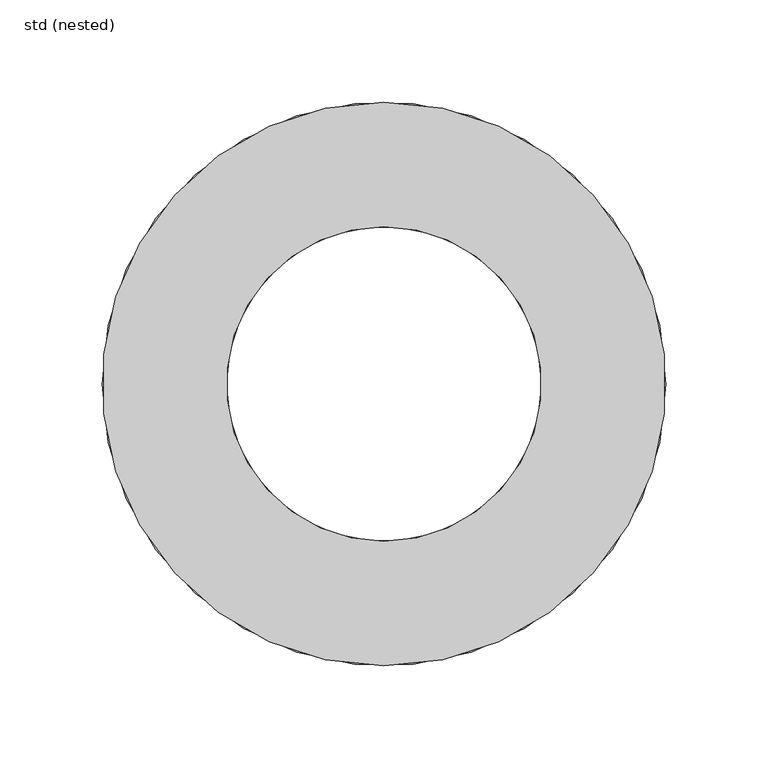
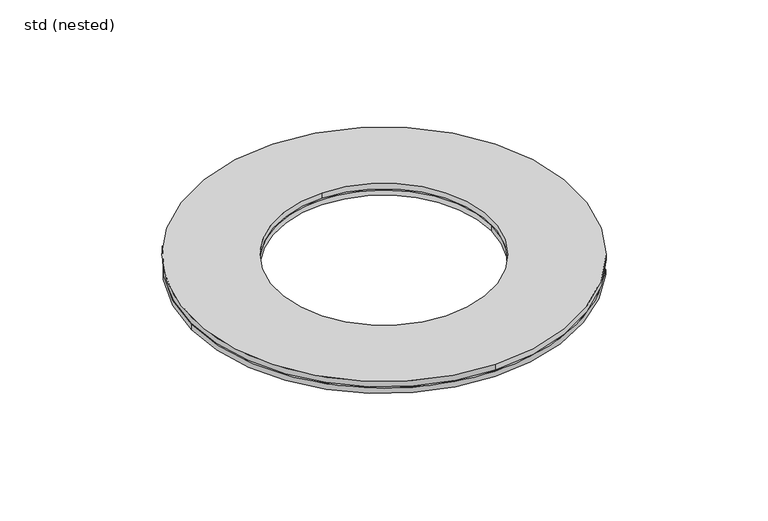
"""IFC4 building model written with IfcOpenShell, lengths in millimetres: sanitary terminal geometry, ZZZ_do not use_PF_GEN_WPB_flange seal for Passavant Jet_ACO : std (nested)."""

from ifc_helpers import new_model, si_unit, point, frame, origin, origin_with_axes, origin_2d, place, context, project, spatial, circle_curve, trimmed, segment, composite_curve, outline, extrude, source, transform, mapped, element, save


def std_nested_2f0308f6(model_context):
    return source(origin(), model_context, "Body", "SweptSolid", [
        extrude(outline(composite_curve([segment(trimmed(circle_curve(origin_2d(), 138.0), [point((0.0, 138.0))], [point((0.0, -138.0))], False, "CARTESIAN"), True, "CONTINUOUS"), segment(trimmed(circle_curve(origin_2d(), 138.0), [point((0.0, -138.0))], [point((0.0, 138.0))], False, "CARTESIAN"), True, "CONTINUOUS")], self_intersect=False), holes=[composite_curve([segment(trimmed(circle_curve(origin_2d(), 77.0), [point((0.0, 77.0))], [point((0.0, -77.0))], True, "CARTESIAN"), True, "CONTINUOUS"), segment(trimmed(circle_curve(origin_2d(), 77.0), [point((0.0, -77.0))], [point((0.0, 77.0))], True, "CARTESIAN"), True, "CONTINUOUS")], self_intersect=False)]), frame((0.0, 0.0, 5.0), z_axis=(0.0, 0.0, 1.0), x_axis=(1.0, 0.0, 0.0)), (0.0, 0.0, 1.0), 4.0),
        extrude(outline(composite_curve([segment(trimmed(circle_curve(origin_2d(), 138.0), [point((-138.0, 0.0))], [point((138.0, 0.0))], False, "CARTESIAN"), True, "CONTINUOUS"), segment(trimmed(circle_curve(origin_2d(), 138.0), [point((138.0, 0.0))], [point((-138.0, 0.0))], False, "CARTESIAN"), True, "CONTINUOUS")], self_intersect=False), holes=[composite_curve([segment(trimmed(circle_curve(origin_2d(), 77.0), [point((-77.0, 0.0))], [point((77.0, 0.0))], True, "CARTESIAN"), True, "CONTINUOUS"), segment(trimmed(circle_curve(origin_2d(), 77.0), [point((77.0, 0.0))], [point((-77.0, 0.0))], True, "CARTESIAN"), True, "CONTINUOUS")], self_intersect=False)]), origin_with_axes(), (0.0, 0.0, 1.0), 4.0),
    ])


if __name__ == "__main__":
    model = new_model("IFC4")
    model_context = context("Model", 3, world=origin())
    ifc_project = project(units=[si_unit("LENGTHUNIT", "METRE", prefix="MILLI")], contexts=[model_context])
    site = spatial("IfcSite", under=ifc_project)
    building = spatial("IfcBuilding", under=site)
    placement = place(None, origin())
    std_nested_shape = std_nested_2f0308f6(model_context)
    element("IfcSanitaryTerminal", 1, ObjectType="ZZZ_do not use_PF_GEN_WPB_flange seal for Passavant Jet_ACO : std (nested)", at=placement, inside=building, context=model_context, shape_type="MappedRepresentation", body=[
        mapped(std_nested_shape, transform((0.0, 0.0, 0.0), x_axis=(1.0, 0.0, 0.0), y_axis=(0.0, 1.0, 0.0), z_axis=(0.0, 0.0, 1.0))),
    ])
    save(model, "model.ifc")
